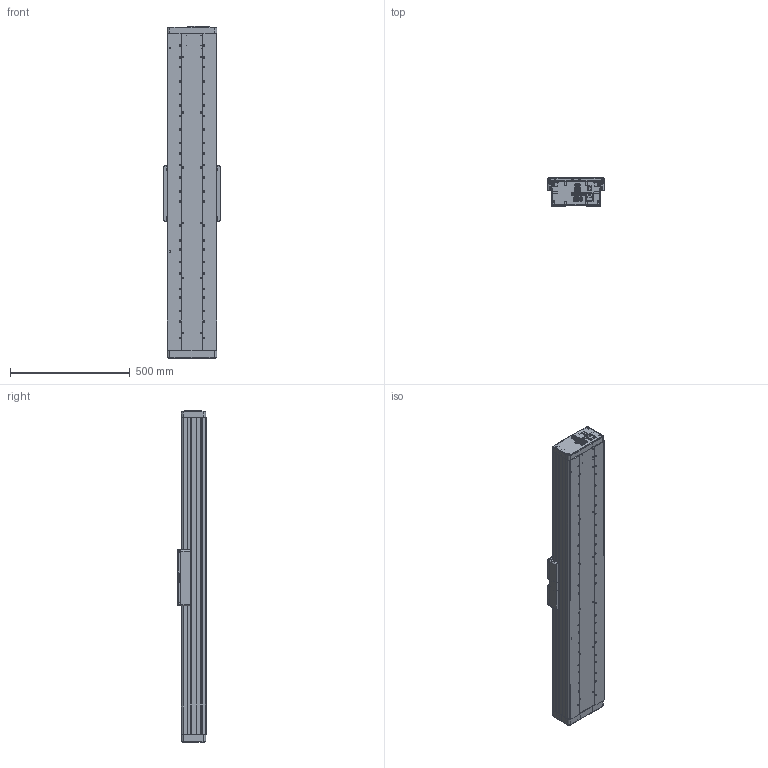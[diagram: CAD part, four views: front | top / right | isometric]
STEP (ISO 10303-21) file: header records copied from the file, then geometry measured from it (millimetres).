
FILE_DESCRIPTION (( 'STEP AP214' ), '1' );
FILE_NAME ('Assy_Linear_Axis_1m_travel_PF400_ShellEXT_091914.STEP', '2014-09-19T21:49:37', ( '' ), ( '' ), 'SwSTEP 2.0', 'SolidWorks 2014', '' );
FILE_SCHEMA (( 'AUTOMOTIVE_DESIGN' ));
Length unit declared in the file: millimetre
Products named in the file (20): Belt Mount, Linear Axis, PF400, ShellEXT; Assy, Base, Linear Axis, PF400, ShellEXT; Assy, Carriage, Linear Axis, Tall, PF400, ShellEXT; keystone_612; IKO_MESC15_slider; Carriage, Tall, Linear Axis, PF400, ShellEXT; IKO_MES15_Rail_1200; Assy, End Cap, Tall, Linear Axis, PF400, ShellEXT; M4-40_91292A132; Assy, Connector End Cap, Tall, Linear Axis, PF400, ShellEXT; M4-25_91292A122; Extrusion, Linear Axis, 1321mm, PF400, ShellEXT; Dsub_mtng_standoff; M6-16_91292A135; M3_6_FHCS_91294A130; Assy_Linear_Axis_1m_travel_PF400_ShellEXT_091914; Base, Cutout Cover, Linear Axis, PF400; Tape Seal^Assy, Linear Axis, 1m travel, PF400, ShellEXT; Cover, Linear Axis, Hollow, 1321mm, PF400, ShellEXT; Misumi-UST6-60_UST-60-Shoulder-Normal Type-SCM435-Bright Chromate-6-Urethane(Black)-
Assembly tree (43 placements, depth 3):
  Assy_Linear_Axis_1m_travel_PF400_ShellEXT_091914
    Extrusion, Linear Axis, 1321mm, PF400, ShellEXT
    Assy, Connector End Cap, Tall, Linear Axis, PF400, ShellEXT
    Assy, End Cap, Tall, Linear Axis, PF400, ShellEXT
    IKO_MES15_Rail_1200  x2
    Assy, Carriage, Linear Axis, Tall, PF400, ShellEXT
      Carriage, Tall, Linear Axis, PF400, ShellEXT
      IKO_MESC15_slider  x4
      keystone_612  x4
    Assy, Base, Linear Axis, PF400, ShellEXT
    Belt Mount, Linear Axis, PF400, ShellEXT
    Misumi-UST6-60_UST-60-Shoulder-Normal Type-SCM435-Bright Chromate-6-Urethane(Black)-
    Cover, Linear Axis, Hollow, 1321mm, PF400, ShellEXT
    Tape Seal^Assy, Linear Axis, 1m travel, PF400, ShellEXT  x2
    Base, Cutout Cover, Linear Axis, PF400
    M3_6_FHCS_91294A130  x4
    M6-16_91292A135  x4
    Dsub_mtng_standoff  x4
    M4-25_91292A122  x8
    M4-40_91292A132
Bounding box: 234 x 119.2 x 1383.8 mm (x, y, z)
Volume: 615754 mm3; surface area: 3220092 mm2
Topology: 53 solids, 152 shells, 4879 faces, 14880 edges, 10168 vertices
Faces by surface type: plane 2284, cylinder 1845, cone 421, bspline 275, torus 54
Entity records: 165222 total; most frequent: CARTESIAN_POINT 34173, DIRECTION 20113, ORIENTED_EDGE 18850, EDGE_CURVE 11091, VERTEX_POINT 7794, VECTOR 6981, LINE 6981, AXIS2_PLACEMENT_3D 6566
